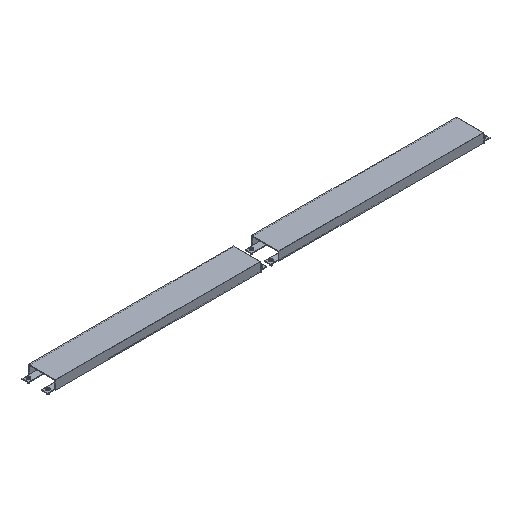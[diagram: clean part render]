
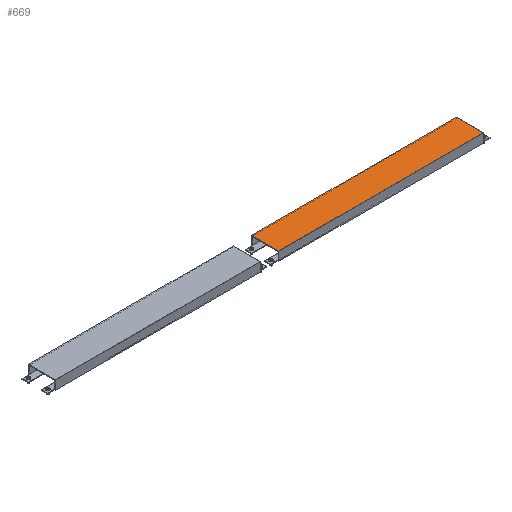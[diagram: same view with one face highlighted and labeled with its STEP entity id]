
A CAD part, isometric view. The second image highlights one B-rep face of the part: STEP entity #669.
In plain terms, the highlighted planar face has unit normal (0, 0, 1).
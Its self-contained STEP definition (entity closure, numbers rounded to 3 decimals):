
#348 = VERTEX_POINT('',#349);
#349 = CARTESIAN_POINT('',(295.,-39.,0.));
#355 = EDGE_CURVE('',#348,#356,#358,.T.);
#356 = VERTEX_POINT('',#357);
#357 = CARTESIAN_POINT('',(-295.,-39.,-0.));
#358 = LINE('',#359,#360);
#359 = CARTESIAN_POINT('',(0.,-39.,-0.));
#360 = VECTOR('',#361,1.);
#361 = DIRECTION('',(-1.,-0.,-0.));
#536 = VERTEX_POINT('',#537);
#537 = CARTESIAN_POINT('',(-295.,39.,0.));
#543 = EDGE_CURVE('',#536,#544,#546,.T.);
#544 = VERTEX_POINT('',#545);
#545 = CARTESIAN_POINT('',(295.,39.,0.));
#546 = LINE('',#547,#548);
#547 = CARTESIAN_POINT('',(0.,39.,0.));
#548 = VECTOR('',#549,1.);
#549 = DIRECTION('',(1.,-0.,-0.));
#669 = ADVANCED_FACE('',(#670),#718,.F.);
#670 = FACE_BOUND('',#671,.T.);
#671 = EDGE_LOOP('',(#672,#682,#688,#689,#697,#705,#711,#712));
#672 = ORIENTED_EDGE('',*,*,#673,.T.);
#673 = EDGE_CURVE('',#674,#676,#678,.T.);
#674 = VERTEX_POINT('',#675);
#675 = CARTESIAN_POINT('',(-295.,36.4,0.));
#676 = VERTEX_POINT('',#677);
#677 = CARTESIAN_POINT('',(-295.,-36.4,0.));
#678 = LINE('',#679,#680);
#679 = CARTESIAN_POINT('',(-295.,-39.,0.));
#680 = VECTOR('',#681,1.);
#681 = DIRECTION('',(-0.,-1.,-0.));
#682 = ORIENTED_EDGE('',*,*,#683,.T.);
#683 = EDGE_CURVE('',#676,#356,#684,.T.);
#684 = LINE('',#685,#686);
#685 = CARTESIAN_POINT('',(-295.,-36.4,0.));
#686 = VECTOR('',#687,1.);
#687 = DIRECTION('',(-0.,-1.,-0.));
#688 = ORIENTED_EDGE('',*,*,#355,.F.);
#689 = ORIENTED_EDGE('',*,*,#690,.F.);
#690 = EDGE_CURVE('',#691,#348,#693,.T.);
#691 = VERTEX_POINT('',#692);
#692 = CARTESIAN_POINT('',(295.,-36.4,0.));
#693 = LINE('',#694,#695);
#694 = CARTESIAN_POINT('',(295.,0.,0.));
#695 = VECTOR('',#696,1.);
#696 = DIRECTION('',(-0.,-1.,0.));
#697 = ORIENTED_EDGE('',*,*,#698,.T.);
#698 = EDGE_CURVE('',#691,#699,#701,.T.);
#699 = VERTEX_POINT('',#700);
#700 = CARTESIAN_POINT('',(295.,36.4,0.));
#701 = LINE('',#702,#703);
#702 = CARTESIAN_POINT('',(295.,-39.,0.));
#703 = VECTOR('',#704,1.);
#704 = DIRECTION('',(0.,1.,0.));
#705 = ORIENTED_EDGE('',*,*,#706,.T.);
#706 = EDGE_CURVE('',#699,#544,#707,.T.);
#707 = LINE('',#708,#709);
#708 = CARTESIAN_POINT('',(295.,36.4,0.));
#709 = VECTOR('',#710,1.);
#710 = DIRECTION('',(-0.,1.,-0.));
#711 = ORIENTED_EDGE('',*,*,#543,.F.);
#712 = ORIENTED_EDGE('',*,*,#713,.F.);
#713 = EDGE_CURVE('',#674,#536,#714,.T.);
#714 = LINE('',#715,#716);
#715 = CARTESIAN_POINT('',(-295.,0.,0.));
#716 = VECTOR('',#717,1.);
#717 = DIRECTION('',(0.,1.,0.));
#718 = PLANE('',#719);
#719 = AXIS2_PLACEMENT_3D('',#720,#721,#722);
#720 = CARTESIAN_POINT('',(0.,0.,0.));
#721 = DIRECTION('',(0.,0.,-1.));
#722 = DIRECTION('',(-1.,0.,-0.));
